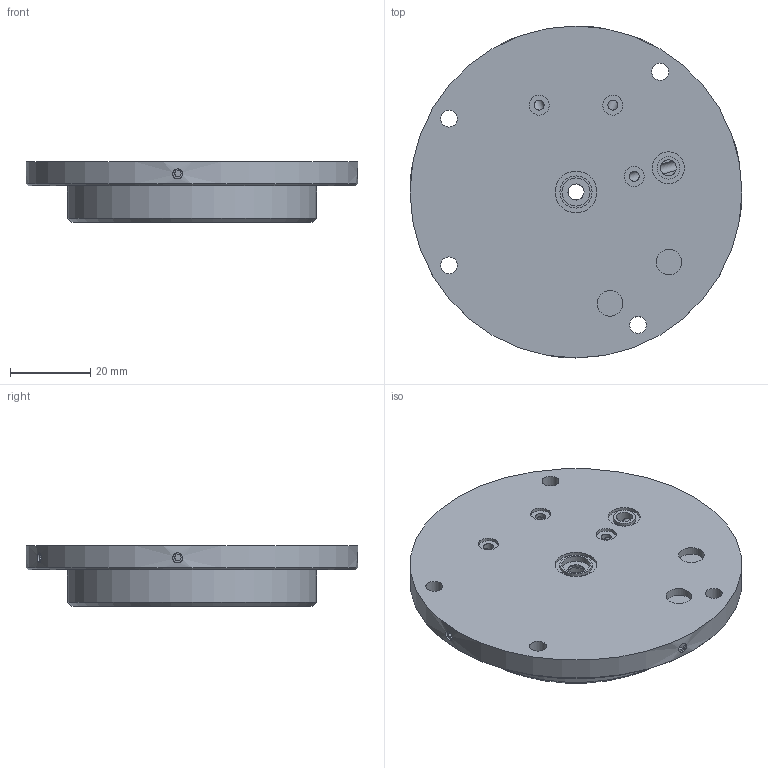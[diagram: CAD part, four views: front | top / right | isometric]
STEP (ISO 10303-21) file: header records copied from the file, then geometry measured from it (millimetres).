
FILE_DESCRIPTION(('STEP AP203'),'1');
FILE_NAME(').stp','2025-04-23T02:26:43',(' '),(' '),'Spatial InterOp 3D',' ',' ');
FILE_SCHEMA(('CONFIG_CONTROL_DESIGN'));
Length unit declared in the file: millimetre
Products named in the file (1): 1
Bounding box: 82.6 x 82.6 x 15 mm (x, y, z)
Volume: 53684.7 mm3; surface area: 17534.3 mm2
Topology: 1 solids, 1 shells, 147 faces, 369 edges, 242 vertices
Faces by surface type: plane 82, cylinder 48, cone 17
Full cylindrical faces by diameter (mm): 2.5 x21, 4 x2, 4.2 x4, 5 x3, 5.6 x1, 6.4 x2, 7 x1, 7.6 x4, 8 x2, 8.5 x5, 10.4 x1, 62 x1, 82.6 x1
Entity records: 4700 total; most frequent: CARTESIAN_POINT 1533, DIRECTION 622, ORIENTED_EDGE 548, EDGE_CURVE 274, EDGE_LOOP 253, AXIS2_PLACEMENT_3D 247, VERTEX_POINT 216, FACE_OUTER_BOUND 195
